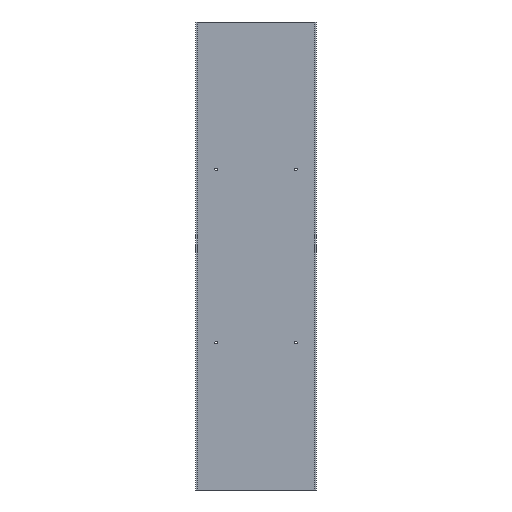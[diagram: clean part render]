
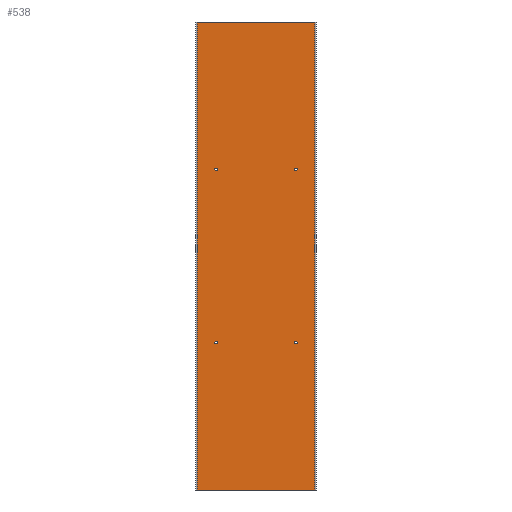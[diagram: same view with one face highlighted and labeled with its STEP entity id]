
A CAD part, front view. The second image highlights one B-rep face of the part: STEP entity #538.
In plain terms, the highlighted planar face has unit normal (0, -1, 0).
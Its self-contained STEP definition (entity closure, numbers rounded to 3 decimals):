
#1 = VERTEX_POINT ( 'NONE', #54 ) ;
#4 = AXIS2_PLACEMENT_3D ( 'NONE', #18, #82, #247 ) ;
#16 = ORIENTED_EDGE ( 'NONE', *, *, #629, .F. ) ;
#18 = CARTESIAN_POINT ( 'NONE',  ( -85., 0., -315. ) ) ;
#35 = ORIENTED_EDGE ( 'NONE', *, *, #698, .F. ) ;
#52 = CARTESIAN_POINT ( 'NONE',  ( 85., 0., -682. ) ) ;
#54 = CARTESIAN_POINT ( 'NONE',  ( -85., 0., -312. ) ) ;
#55 = VERTEX_POINT ( 'NONE', #393 ) ;
#56 = VERTEX_POINT ( 'NONE', #52 ) ;
#61 = EDGE_LOOP ( 'NONE', ( #494, #528 ) ) ;
#63 = AXIS2_PLACEMENT_3D ( 'NONE', #380, #438, #383 ) ;
#77 = CIRCLE ( 'NONE', #314, 3. ) ;
#82 = DIRECTION ( 'NONE',  ( 0., -1., 0. ) ) ;
#83 = DIRECTION ( 'NONE',  ( 0., 0., -1. ) ) ;
#86 = EDGE_CURVE ( 'NONE', #728, #670, #485, .T. ) ;
#100 = EDGE_LOOP ( 'NONE', ( #16, #35 ) ) ;
#106 = EDGE_CURVE ( 'NONE', #670, #341, #442, .T. ) ;
#119 = CIRCLE ( 'NONE', #287, 3. ) ;
#126 = CARTESIAN_POINT ( 'NONE',  ( 85., 0., -688. ) ) ;
#128 = CARTESIAN_POINT ( 'NONE',  ( -85., 0., -682. ) ) ;
#135 = DIRECTION ( 'NONE',  ( 0., -1., 0. ) ) ;
#141 = FACE_BOUND ( 'NONE', #518, .T. ) ;
#162 = VERTEX_POINT ( 'NONE', #510 ) ;
#168 = ORIENTED_EDGE ( 'NONE', *, *, #330, .T. ) ;
#177 = AXIS2_PLACEMENT_3D ( 'NONE', #376, #231, #293 ) ;
#183 = CARTESIAN_POINT ( 'NONE',  ( -126., 0., 0. ) ) ;
#187 = ORIENTED_EDGE ( 'NONE', *, *, #654, .F. ) ;
#188 = EDGE_CURVE ( 'NONE', #56, #603, #570, .T. ) ;
#190 = CIRCLE ( 'NONE', #63, 3. ) ;
#193 = CARTESIAN_POINT ( 'NONE',  ( 85., 0., -685. ) ) ;
#195 = DIRECTION ( 'NONE',  ( 1., 0., 0. ) ) ;
#207 = VERTEX_POINT ( 'NONE', #235 ) ;
#208 = DIRECTION ( 'NONE',  ( 0., 0., 1. ) ) ;
#231 = DIRECTION ( 'NONE',  ( 0., -1., 0. ) ) ;
#235 = CARTESIAN_POINT ( 'NONE',  ( 85., 0., -312. ) ) ;
#247 = DIRECTION ( 'NONE',  ( 0., 0., -1. ) ) ;
#252 = EDGE_CURVE ( 'NONE', #162, #1, #427, .T. ) ;
#255 = CARTESIAN_POINT ( 'NONE',  ( -85., 0., -685. ) ) ;
#266 = CARTESIAN_POINT ( 'NONE',  ( 126., 0., 0. ) ) ;
#270 = CARTESIAN_POINT ( 'NONE',  ( 126., 0., -1000. ) ) ;
#272 = CARTESIAN_POINT ( 'NONE',  ( -85., 0., -688. ) ) ;
#284 = LINE ( 'NONE', #547, #449 ) ;
#285 = VECTOR ( 'NONE', #345, 1000. ) ;
#287 = AXIS2_PLACEMENT_3D ( 'NONE', #368, #483, #428 ) ;
#292 = ORIENTED_EDGE ( 'NONE', *, *, #86, .F. ) ;
#293 = DIRECTION ( 'NONE',  ( 0., 0., -1. ) ) ;
#295 = CIRCLE ( 'NONE', #699, 3. ) ;
#296 = DIRECTION ( 'NONE',  ( 0., -1., 0. ) ) ;
#305 = FACE_BOUND ( 'NONE', #100, .T. ) ;
#314 = AXIS2_PLACEMENT_3D ( 'NONE', #589, #426, #478 ) ;
#326 = PLANE ( 'NONE',  #177 ) ;
#330 = EDGE_CURVE ( 'NONE', #728, #464, #553, .T. ) ;
#341 = VERTEX_POINT ( 'NONE', #266 ) ;
#344 = AXIS2_PLACEMENT_3D ( 'NONE', #574, #577, #458 ) ;
#345 = DIRECTION ( 'NONE',  ( 1., 0., 0. ) ) ;
#349 = CARTESIAN_POINT ( 'NONE',  ( 85., 0., -685. ) ) ;
#366 = EDGE_CURVE ( 'NONE', #484, #567, #119, .T. ) ;
#368 = CARTESIAN_POINT ( 'NONE',  ( -85., 0., -685. ) ) ;
#370 = CARTESIAN_POINT ( 'NONE',  ( -126., 0., 0. ) ) ;
#376 = CARTESIAN_POINT ( 'NONE',  ( -126., 0., -1000. ) ) ;
#380 = CARTESIAN_POINT ( 'NONE',  ( -85., 0., -315. ) ) ;
#383 = DIRECTION ( 'NONE',  ( 0., 0., -1. ) ) ;
#393 = CARTESIAN_POINT ( 'NONE',  ( 85., 0., -318. ) ) ;
#424 = ORIENTED_EDGE ( 'NONE', *, *, #366, .F. ) ;
#426 = DIRECTION ( 'NONE',  ( 0., -1., 0. ) ) ;
#427 = CIRCLE ( 'NONE', #4, 3. ) ;
#428 = DIRECTION ( 'NONE',  ( 0., 0., -1. ) ) ;
#438 = DIRECTION ( 'NONE',  ( 0., -1., 0. ) ) ;
#442 = LINE ( 'NONE', #183, #285 ) ;
#449 = VECTOR ( 'NONE', #208, 1000. ) ;
#458 = DIRECTION ( 'NONE',  ( 0., 0., -1. ) ) ;
#464 = VERTEX_POINT ( 'NONE', #270 ) ;
#467 = EDGE_LOOP ( 'NONE', ( #515, #292, #168, #703 ) ) ;
#477 = ORIENTED_EDGE ( 'NONE', *, *, #188, .F. ) ;
#478 = DIRECTION ( 'NONE',  ( 0., 0., -1. ) ) ;
#483 = DIRECTION ( 'NONE',  ( 0., -1., 0. ) ) ;
#484 = VERTEX_POINT ( 'NONE', #272 ) ;
#485 = LINE ( 'NONE', #504, #609 ) ;
#487 = EDGE_LOOP ( 'NONE', ( #187, #424 ) ) ;
#494 = ORIENTED_EDGE ( 'NONE', *, *, #514, .F. ) ;
#499 = CIRCLE ( 'NONE', #344, 3. ) ;
#504 = CARTESIAN_POINT ( 'NONE',  ( -126., 0., -1000. ) ) ;
#510 = CARTESIAN_POINT ( 'NONE',  ( -85., 0., -318. ) ) ;
#514 = EDGE_CURVE ( 'NONE', #1, #162, #190, .T. ) ;
#515 = ORIENTED_EDGE ( 'NONE', *, *, #106, .F. ) ;
#516 = DIRECTION ( 'NONE',  ( 0., 0., -1. ) ) ;
#518 = EDGE_LOOP ( 'NONE', ( #477, #682 ) ) ;
#528 = ORIENTED_EDGE ( 'NONE', *, *, #252, .F. ) ;
#529 = EDGE_CURVE ( 'NONE', #464, #341, #284, .T. ) ;
#531 = DIRECTION ( 'NONE',  ( 0., 0., -1. ) ) ;
#536 = VECTOR ( 'NONE', #195, 1000. ) ;
#538 = ADVANCED_FACE ( 'NONE', ( #305, #661, #141, #588, #543 ), #326, .T. ) ;
#543 = FACE_OUTER_BOUND ( 'NONE', #467, .T. ) ;
#547 = CARTESIAN_POINT ( 'NONE',  ( 126., 0., -1000. ) ) ;
#553 = LINE ( 'NONE', #657, #536 ) ;
#556 = DIRECTION ( 'NONE',  ( 0., 0., 1. ) ) ;
#567 = VERTEX_POINT ( 'NONE', #128 ) ;
#570 = CIRCLE ( 'NONE', #636, 3. ) ;
#574 = CARTESIAN_POINT ( 'NONE',  ( 85., 0., -315. ) ) ;
#577 = DIRECTION ( 'NONE',  ( 0., -1., 0. ) ) ;
#578 = CIRCLE ( 'NONE', #680, 3. ) ;
#588 = FACE_BOUND ( 'NONE', #487, .T. ) ;
#589 = CARTESIAN_POINT ( 'NONE',  ( 85., 0., -315. ) ) ;
#603 = VERTEX_POINT ( 'NONE', #126 ) ;
#609 = VECTOR ( 'NONE', #556, 1000. ) ;
#610 = EDGE_CURVE ( 'NONE', #603, #56, #295, .T. ) ;
#628 = CARTESIAN_POINT ( 'NONE',  ( -126., 0., -1000. ) ) ;
#629 = EDGE_CURVE ( 'NONE', #207, #55, #77, .T. ) ;
#636 = AXIS2_PLACEMENT_3D ( 'NONE', #349, #296, #516 ) ;
#654 = EDGE_CURVE ( 'NONE', #567, #484, #578, .T. ) ;
#657 = CARTESIAN_POINT ( 'NONE',  ( -126., 0., -1000. ) ) ;
#661 = FACE_BOUND ( 'NONE', #61, .T. ) ;
#670 = VERTEX_POINT ( 'NONE', #370 ) ;
#680 = AXIS2_PLACEMENT_3D ( 'NONE', #255, #135, #531 ) ;
#682 = ORIENTED_EDGE ( 'NONE', *, *, #610, .F. ) ;
#698 = EDGE_CURVE ( 'NONE', #55, #207, #499, .T. ) ;
#699 = AXIS2_PLACEMENT_3D ( 'NONE', #193, #714, #83 ) ;
#703 = ORIENTED_EDGE ( 'NONE', *, *, #529, .T. ) ;
#714 = DIRECTION ( 'NONE',  ( 0., -1., 0. ) ) ;
#728 = VERTEX_POINT ( 'NONE', #628 ) ;
